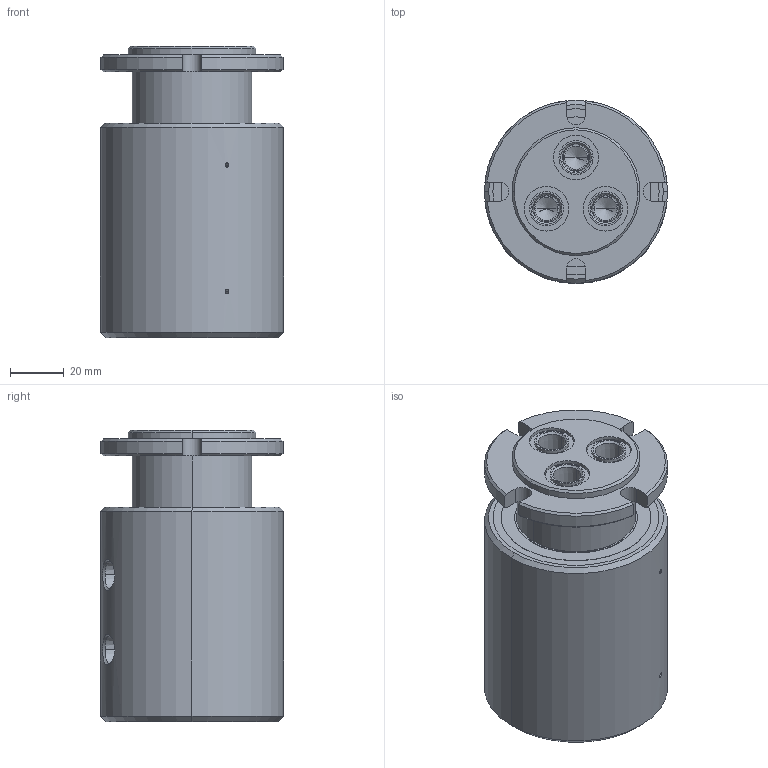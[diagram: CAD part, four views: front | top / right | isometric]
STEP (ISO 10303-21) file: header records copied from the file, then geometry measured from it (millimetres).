
FILE_DESCRIPTION (( 'STEP AP214' ), '1' );
FILE_NAME ('GP(M)-130.STEP', '2013-02-05T22:01:25', ( '' ), ( '' ), 'SwSTEP 2.0', 'SolidWorks 2011', '' );
FILE_SCHEMA (( 'AUTOMOTIVE_DESIGN' ));
Length unit declared in the file: inch
Products named in the file (1): GP(M)-130
Bounding box: 68.25 x 68.25 x 108.51 mm (x, y, z)
Volume: 335966 mm3; surface area: 37205.5 mm2
Topology: 1 solids, 1 shells, 180 faces, 424 edges, 258 vertices
Faces by surface type: cylinder 77, cone 56, plane 39, bspline 6, torus 2
Entity records: 6403 total; most frequent: CARTESIAN_POINT 1537, DIRECTION 900, ORIENTED_EDGE 800, EDGE_CURVE 400, AXIS2_PLACEMENT_3D 369, VERTEX_POINT 258, EDGE_LOOP 216, CIRCLE 194
